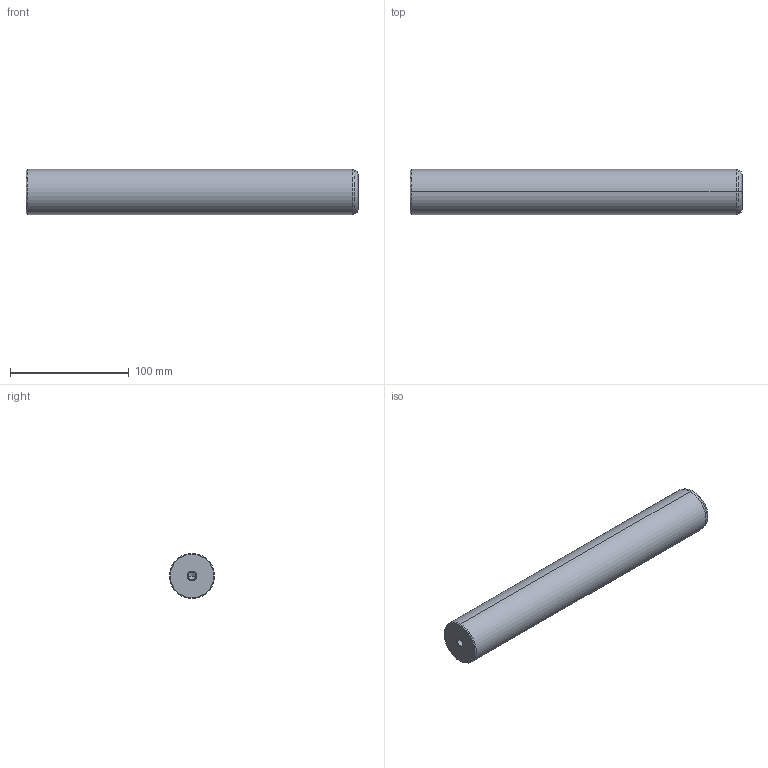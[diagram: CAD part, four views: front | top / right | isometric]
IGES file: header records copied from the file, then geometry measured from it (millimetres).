
Start section: START RECORD GO HERE.
Global section: file name: 720-38x280.igs; native system: DASSAULT SYSTEMES CATIA V5 R20 - www.3ds.com; preprocessor: CATIA Version 5 Release 20 ; author: Utente; organization: NB04-ASUS; date: 20210101.130405; units: millimetre
Bounding box: 280 x 38 x 38 mm (x, y, z)
Surface area: 36381.3 mm2 (no closed solid volume)
Topology: 0 solids, 0 shells, 22 faces, 108 edges, 104 vertices
Faces by surface type: revolution 20, plane 2
